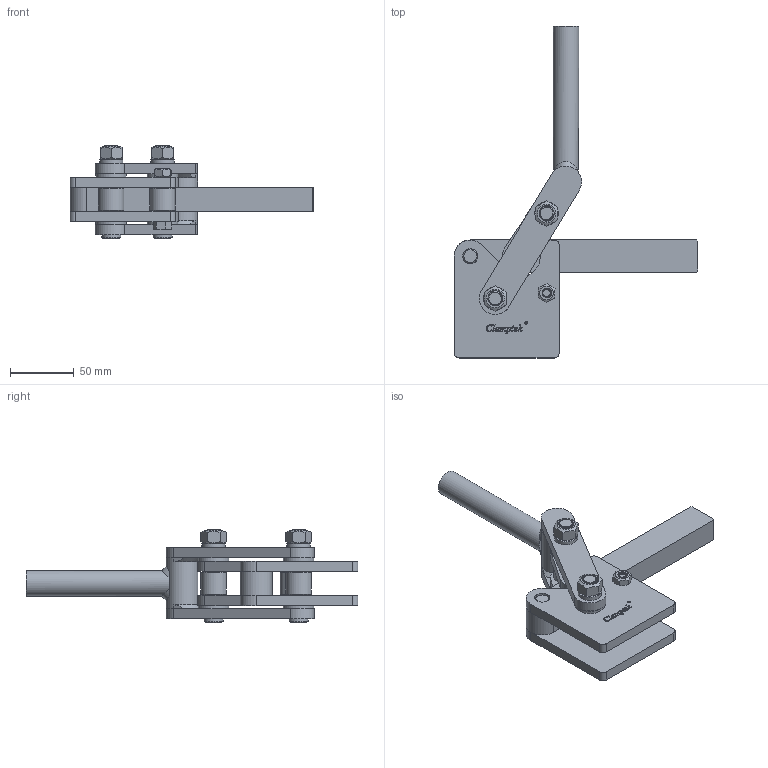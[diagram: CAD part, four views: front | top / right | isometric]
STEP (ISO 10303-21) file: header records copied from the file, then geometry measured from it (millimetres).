
FILE_DESCRIPTION(/* description */ ('STEP AP203'),/* implementation_level */ '2;1');
FILE_NAME(/* name */ 'D:\Vault_2016\Projekty\NASZ KATALOG\CLAMPTEK\STRONA\Heavy duty weldables\CH-75048\CH-75048_ZAMKNIETY.stp',/* time_stamp */ '2019-01-21T11:38:58+01:00',/* author */ ('CADENGINEERING4'),/* organization */ ('Î¢ÈíÖÐ¹ú'),/* preprocessor_version */ 'ST-DEVELOPER v17.2',/* originating_system */ 'Autodesk Inventor 2019',/* authorisation */ '');
FILE_SCHEMA (('AUTOMOTIVE_DESIGN { 1 0 10303 214 3 1 1 }'));
Products named in the file (15): CH-75048_ZAMKNIETY; M8X40_Ä¬ÈÏ; CH-75048-09_Ä¬ÈÏ; CH-75048-04 CONNECTING-PLATE_Ä¬ÈÏ; CH-75048-10_Ä¬ÈÏ; CH-75048-01 SUPPORT_Ä¬ÈÏ; M8 NUT_Ä¬ÈÏ; CH-75048-07_Ä¬ÈÏ; CH-75048-03 HANDLE_Ä¬ÈÏ_°´¼
Ó¹¤_; CH-75048-02 BAR_Ä¬ÈÏ; CH-75048-05_Ä¬ÈÏ; CH-75048-08_Ä¬ÈÏ; CH-75048-11_Ä¬ÈÏ; CH-75048-06_Ä¬ÈÏ; M12 NUT_Ä¬ÈÏ
Assembly tree (28 placements, depth 2):
  CH-75048_ZAMKNIETY
    CH-75048-08_Ä¬ÈÏ  x4
    CH-75048-09_Ä¬ÈÏ  x2
    CH-75048-11_Ä¬ÈÏ  x4
    CH-75048-05_Ä¬ÈÏ  x3
    CH-75048-04 CONNECTING-PLATE_Ä¬ÈÏ  x2
    CH-75048-10_Ä¬ÈÏ  x2
    M8X40_Ä¬ÈÏ
    CH-75048-01 SUPPORT_Ä¬ÈÏ
    M8 NUT_Ä¬ÈÏ
    CH-75048-06_Ä¬ÈÏ  x2
    M12 NUT_Ä¬ÈÏ  x2
    CH-75048-07_Ä¬ÈÏ  x2
    CH-75048-03 HANDLE_Ä¬ÈÏ_°´¼
Ó¹¤_
    CH-75048-02 BAR_Ä¬ÈÏ
Bounding box: 191.5 x 260.71 x 73.5 mm (x, y, z)
Volume: 352963.1 mm3; surface area: 125457.7 mm2
Topology: 36 solids, 36 shells, 3414 faces, 10024 edges, 6716 vertices
Faces by surface type: plane 2066, cylinder 1068, bspline 226, cone 53, torus 1
Full cylindrical faces by diameter (mm): 1.973 x1, 2.2 x1, 6.5 x4, 8 x29, 8.4 x2, 9.6 x2, 10.5 x8, 12 x32, 13 x4, 13.6 x3, 14.5 x6, 15 x2, 20 x4, 24 x4, 25 x1
Entity records: 83263 total; most frequent: CARTESIAN_POINT 36542, ORIENTED_EDGE 10530, DIRECTION 8689, EDGE_CURVE 5265, VERTEX_POINT 3530, AXIS2_PLACEMENT_3D 2997, LINE 2695, VECTOR 2695
